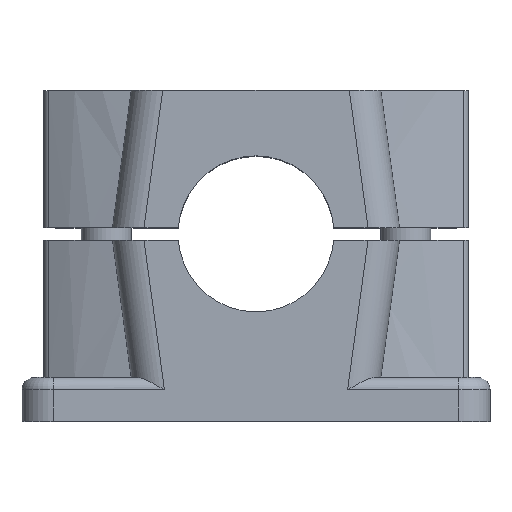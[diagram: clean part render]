
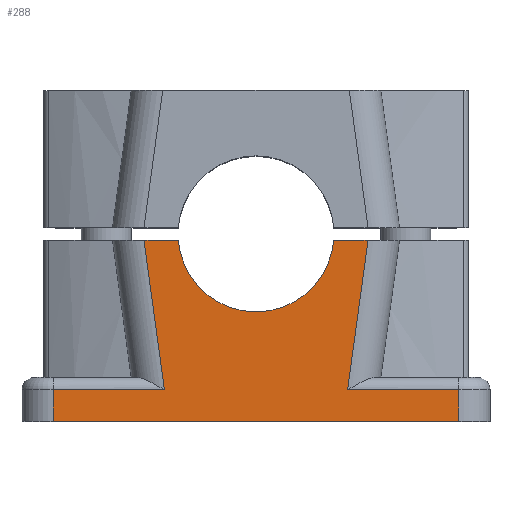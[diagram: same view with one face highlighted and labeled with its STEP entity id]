
A CAD part, top view. The second image highlights one B-rep face of the part: STEP entity #288.
In plain terms, the highlighted planar face has unit normal (0, 0, 1).
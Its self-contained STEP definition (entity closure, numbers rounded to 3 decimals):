
#288 = ADVANCED_FACE( '', ( #772 ), #773, .T. );
#772 = FACE_OUTER_BOUND( '', #1264, .T. );
#773 = PLANE( '', #1265 );
#1264 = EDGE_LOOP( '', ( #3000, #3001, #3002, #3003, #3004, #3005, #3006, #3007, #3008, #3009 ) );
#1265 = AXIS2_PLACEMENT_3D( '', #3010, #3011, #3012 );
#3000 = ORIENTED_EDGE( '', *, *, #3452, .T. );
#3001 = ORIENTED_EDGE( '', *, *, #3402, .F. );
#3002 = ORIENTED_EDGE( '', *, *, #3606, .T. );
#3003 = ORIENTED_EDGE( '', *, *, #3576, .F. );
#3004 = ORIENTED_EDGE( '', *, *, #3598, .T. );
#3005 = ORIENTED_EDGE( '', *, *, #3311, .T. );
#3006 = ORIENTED_EDGE( '', *, *, #3362, .F. );
#3007 = ORIENTED_EDGE( '', *, *, #3295, .F. );
#3008 = ORIENTED_EDGE( '', *, *, #3064, .T. );
#3009 = ORIENTED_EDGE( '', *, *, #3607, .F. );
#3010 = CARTESIAN_POINT( '', ( 0., 0., 25. ) );
#3011 = DIRECTION( '', ( 0., 0., 1. ) );
#3012 = DIRECTION( '', ( 1., 0., 0. ) );
#3064 = EDGE_CURVE( '', #3633, #3631, #3634, .T. );
#3295 = EDGE_CURVE( '', #3633, #4041, #4042, .T. );
#3311 = EDGE_CURVE( '', #4062, #4065, #4067, .T. );
#3362 = EDGE_CURVE( '', #4041, #4065, #4157, .T. );
#3402 = EDGE_CURVE( '', #4223, #4219, #4225, .T. );
#3452 = EDGE_CURVE( '', #4312, #4219, #4313, .T. );
#3576 = EDGE_CURVE( '', #4500, #4498, #4502, .T. );
#3598 = EDGE_CURVE( '', #4500, #4062, #4533, .T. );
#3606 = EDGE_CURVE( '', #4223, #4498, #4542, .T. );
#3607 = EDGE_CURVE( '', #4312, #3631, #4543, .F. );
#3631 = VERTEX_POINT( '', #4602 );
#3633 = VERTEX_POINT( '', #4619 );
#3634 = LINE( '', #4620, #4621 );
#4041 = VERTEX_POINT( '', #5189 );
#4042 = LINE( '', #5190, #5191 );
#4062 = VERTEX_POINT( '', #5213 );
#4065 = VERTEX_POINT( '', #5216 );
#4067 = LINE( '', #5218, #5219 );
#4157 = LINE( '', #5335, #5336 );
#4219 = VERTEX_POINT( '', #5418 );
#4223 = VERTEX_POINT( '', #5423 );
#4225 = CIRCLE( '', #5426, 12.5 );
#4312 = VERTEX_POINT( '', #5550 );
#4313 = LINE( '', #5551, #5552 );
#4498 = VERTEX_POINT( '', #5811 );
#4500 = VERTEX_POINT( '', #5813 );
#4502 = LINE( '', #5830, #5831 );
#4533 = LINE( '', #5876, #5877 );
#4542 = LINE( '', #5890, #5891 );
#4543 = LINE( '', #5892, #5893 );
#4602 = CARTESIAN_POINT( '', ( 14.681, -25., 25. ) );
#4619 = CARTESIAN_POINT( '', ( 32.5, -25., 25. ) );
#4620 = CARTESIAN_POINT( '', ( 32.5, -25., 25. ) );
#4621 = VECTOR( '', #5911, 1000. );
#5189 = CARTESIAN_POINT( '', ( 32.5, -30., 25. ) );
#5190 = CARTESIAN_POINT( '', ( 32.5, -25., 25. ) );
#5191 = VECTOR( '', #6280, 1000. );
#5213 = CARTESIAN_POINT( '', ( -32.5, -25., 25. ) );
#5216 = CARTESIAN_POINT( '', ( -32.5, -30., 25. ) );
#5218 = CARTESIAN_POINT( '', ( -32.5, -25., 25. ) );
#5219 = VECTOR( '', #6322, 1000. );
#5335 = CARTESIAN_POINT( '', ( 32.5, -30., 25. ) );
#5336 = VECTOR( '', #6421, 1000. );
#5418 = CARTESIAN_POINT( '', ( 12.46, -1., 25. ) );
#5423 = CARTESIAN_POINT( '', ( -12.46, -1., 25. ) );
#5426 = AXIS2_PLACEMENT_3D( '', #6495, #6496, #6497 );
#5550 = CARTESIAN_POINT( '', ( 17.954, -1., 25. ) );
#5551 = CARTESIAN_POINT( '', ( 0., -1., 25. ) );
#5552 = VECTOR( '', #6571, 1000. );
#5811 = CARTESIAN_POINT( '', ( -17.954, -1., 25. ) );
#5813 = CARTESIAN_POINT( '', ( -14.681, -25., 25. ) );
#5830 = CARTESIAN_POINT( '', ( -14.669, -25.086, 25. ) );
#5831 = VECTOR( '', #6790, 1000. );
#5876 = CARTESIAN_POINT( '', ( 32.5, -25., 25. ) );
#5877 = VECTOR( '', #6826, 1000. );
#5890 = CARTESIAN_POINT( '', ( 0., -1., 25. ) );
#5891 = VECTOR( '', #6840, 1000. );
#5892 = CARTESIAN_POINT( '', ( 14.669, -25.086, 25. ) );
#5893 = VECTOR( '', #6841, 1000. );
#5911 = DIRECTION( '', ( -1., 0., 0. ) );
#6280 = DIRECTION( '', ( 0., -1., 0. ) );
#6322 = DIRECTION( '', ( 0., -1., 0. ) );
#6421 = DIRECTION( '', ( -1., 0., 0. ) );
#6495 = CARTESIAN_POINT( '', ( 0., 0., 25. ) );
#6496 = DIRECTION( '', ( 0., 0., 1. ) );
#6497 = DIRECTION( '', ( 1., 0., 0. ) );
#6571 = DIRECTION( '', ( -1., 0., 0. ) );
#6790 = DIRECTION( '', ( -0.135, 0.991, 0. ) );
#6826 = DIRECTION( '', ( -1., 0., 0. ) );
#6840 = DIRECTION( '', ( -1., 0., 0. ) );
#6841 = DIRECTION( '', ( 0.135, 0.991, 0. ) );
